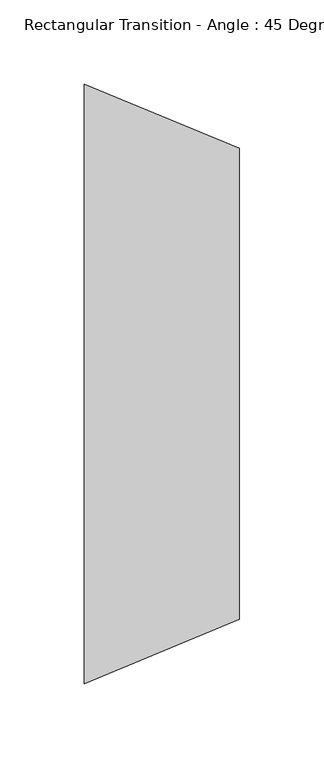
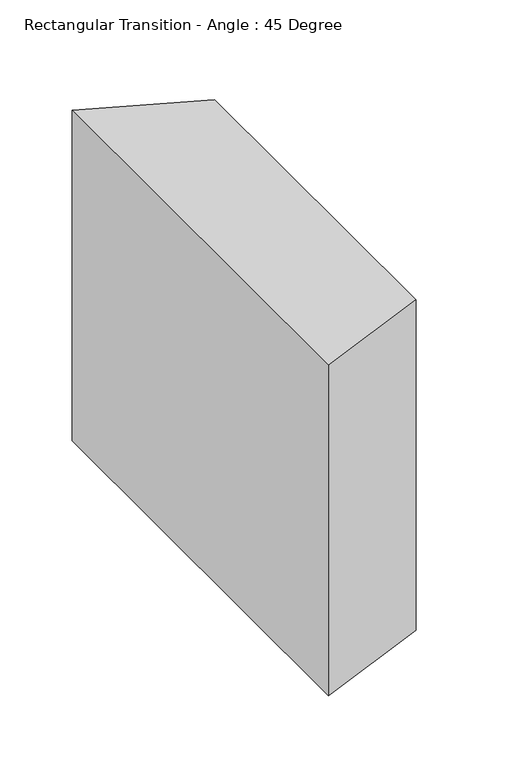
"""IFC4 building model written with IfcOpenShell, lengths in millimetres: duct fitting geometry, Rectangular Transition - Angle : 45 Degree."""

from ifc_helpers import new_model, si_unit, frame, origin, place, context, project, spatial, polyline, outline, extrude, source, transform, mapped, element, save


def rectangular_transition_angle_45_degree_5c02a915(model_context):
    return source(origin(), model_context, "Body", "SweptSolid", [
        extrude(outline(polyline([(0.0, -177.8), (0.0, 177.8), (91.9815367, 139.7), (91.9815367, -139.7), (0.0, -177.8)])), frame((0.0, 0.0, -139.7), z_axis=(0.0, 0.0, 1.0), x_axis=(1.0, 0.0, 0.0)), (0.0, 0.0, 1.0), 279.4),
    ])


if __name__ == "__main__":
    model = new_model("IFC4")
    model_context = context("Model", 3, world=origin())
    ifc_project = project(units=[si_unit("LENGTHUNIT", "METRE", prefix="MILLI")], contexts=[model_context])
    site = spatial("IfcSite", under=ifc_project)
    building = spatial("IfcBuilding", under=site)
    placement = place(None, origin())
    rectangular_transition_angle_45_degree_shape = rectangular_transition_angle_45_degree_5c02a915(model_context)
    element("IfcDuctFitting", 1, ObjectType="Rectangular Transition - Angle : 45 Degree", at=placement, inside=building, context=model_context, shape_type="MappedRepresentation", body=[
        mapped(rectangular_transition_angle_45_degree_shape, transform((0.0, 0.0, 0.0), x_axis=(1.0, 0.0, 0.0), y_axis=(0.0, 1.0, 0.0), z_axis=(0.0, 0.0, 1.0))),
    ])
    save(model, "model.ifc")
